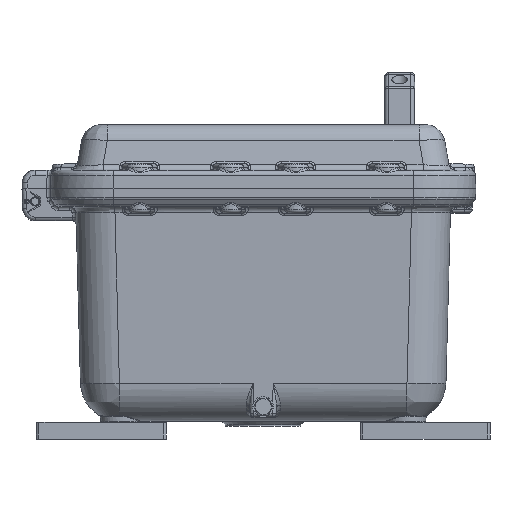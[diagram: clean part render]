
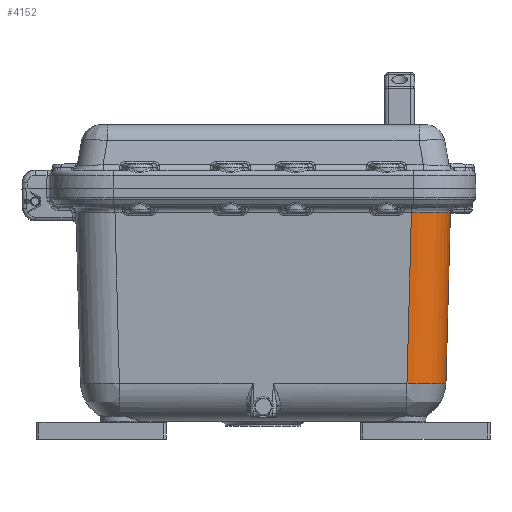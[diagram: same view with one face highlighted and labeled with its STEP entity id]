
A CAD part, left-side view. The second image highlights one B-rep face of the part: STEP entity #4152.
In plain terms, the highlighted cylindrical face has radius 30 mm (diameter 60 mm), a partial arc.
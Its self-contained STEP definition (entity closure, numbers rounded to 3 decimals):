
#4152=ADVANCED_FACE('',(#29565),#29567,.T.);
#29565=FACE_BOUND('',#29566,.T.);
#29566=EDGE_LOOP('',(#84536,#84537,#84538,#84539));
#29567=CYLINDRICAL_SURFACE('',#29568,30.);
#29568=AXIS2_PLACEMENT_3D('',#29569,#29570,#29571);
#29569=CARTESIAN_POINT('',(-164.052,16.705,-114.052));
#29570=DIRECTION('',(-0.026,-0.999,-0.026));
#29571=DIRECTION('',(-1.,0.026,0.));
#84536=ORIENTED_EDGE('',*,*,#97548,.F.);
#84537=ORIENTED_EDGE('',*,*,#97432,.T.);
#84538=ORIENTED_EDGE('',*,*,#97428,.F.);
#84539=ORIENTED_EDGE('',*,*,#97549,.F.);
#97428=EDGE_CURVE('',#104027,#103921,#104029,.T.);
#97432=EDGE_CURVE('',#104035,#103921,#104036,.T.);
#97548=EDGE_CURVE('',#104035,#104232,#104233,.T.);
#97549=EDGE_CURVE('',#104232,#104027,#104234,.T.);
#103921=VERTEX_POINT('',#114714);
#104027=VERTEX_POINT('',#115574);
#104029=CIRCLE('',#115579,30.);
#104035=VERTEX_POINT('',#115594);
#104036=LINE('',#115595,#115596);
#104232=VERTEX_POINT('',#117191);
#104233=B_SPLINE_CURVE_WITH_KNOTS('',3,
(#117192,#117193,#117194,#117195,#117196,#117197,#117198,#117199,#117200,#117201,
#117202,#117203,#117204,#117205,#117206,#117207,#117208,#117209,#117210,#117211,
#117212,#117213,#117214,#117215,#117216,#117217),
.UNSPECIFIED.,.F.,.F.,
(4,1,1,1,1,1,1,1,1,1,1,1,1,1,1,1,1,1,1,1,1,1,1,4),
(0.,0.053,0.099,0.143,0.182,0.216,
0.239,0.267,0.297,0.33,0.364,
0.403,0.442,0.482,0.523,0.562,
0.602,0.655,0.711,0.77,0.825,
0.883,0.943,1.),
.UNSPECIFIED.);
#104234=LINE('',#117218,#117219);
#114714=CARTESIAN_POINT('',(-190.604,148.785,-110.614));
#115574=CARTESIAN_POINT('',(-160.614,148.785,-140.604));
#115579=AXIS2_PLACEMENT_3D('',#115580,#115581,#115582);
#115580=CARTESIAN_POINT('',(-160.614,148.,-110.614));
#115581=DIRECTION('',(0.026,0.999,0.026));
#115582=DIRECTION('',(0.,0.026,-1.));
#115594=CARTESIAN_POINT('',(-194.032,17.869,-114.042));
#115595=CARTESIAN_POINT('',(-194.032,17.869,-114.042));
#115596=VECTOR('',#115597,1.);
#115597=DIRECTION('',(0.026,0.999,0.026));
#117191=CARTESIAN_POINT('',(-164.042,17.869,-144.032));
#117192=CARTESIAN_POINT('',(-194.032,17.869,-114.042));
#117193=CARTESIAN_POINT('',(-194.033,17.865,-114.877));
#117194=CARTESIAN_POINT('',(-193.967,17.859,-116.434));
#117195=CARTESIAN_POINT('',(-193.697,17.85,-118.674));
#117196=CARTESIAN_POINT('',(-193.314,17.843,-120.661));
#117197=CARTESIAN_POINT('',(-192.853,17.838,-122.435));
#117198=CARTESIAN_POINT('',(-192.391,17.833,-123.868));
#117199=CARTESIAN_POINT('',(-191.923,17.83,-125.12));
#117200=CARTESIAN_POINT('',(-191.431,17.827,-126.29));
#117201=CARTESIAN_POINT('',(-190.821,17.824,-127.577));
#117202=CARTESIAN_POINT('',(-190.1,17.821,-128.923));
#117203=CARTESIAN_POINT('',(-189.234,17.819,-130.349));
#117204=CARTESIAN_POINT('',(-188.239,17.817,-131.796));
#117205=CARTESIAN_POINT('',(-187.098,17.816,-133.258));
#117206=CARTESIAN_POINT('',(-185.849,17.815,-134.666));
#117207=CARTESIAN_POINT('',(-184.504,17.815,-136.));
#117208=CARTESIAN_POINT('',(-183.089,17.816,-137.236));
#117209=CARTESIAN_POINT('',(-181.445,17.817,-138.503));
#117210=CARTESIAN_POINT('',(-179.494,17.82,-139.792));
#117211=CARTESIAN_POINT('',(-177.165,17.825,-141.058));
#117212=CARTESIAN_POINT('',(-174.701,17.831,-142.119));
#117213=CARTESIAN_POINT('',(-172.131,17.839,-142.963));
#117214=CARTESIAN_POINT('',(-169.482,17.847,-143.58));
#117215=CARTESIAN_POINT('',(-166.762,17.858,-143.951));
#117216=CARTESIAN_POINT('',(-164.931,17.865,-144.032));
#117217=CARTESIAN_POINT('',(-164.042,17.869,-144.032));
#117218=CARTESIAN_POINT('',(-164.042,17.869,-144.032));
#117219=VECTOR('',#117220,1.);
#117220=DIRECTION('',(0.026,0.999,0.026));
